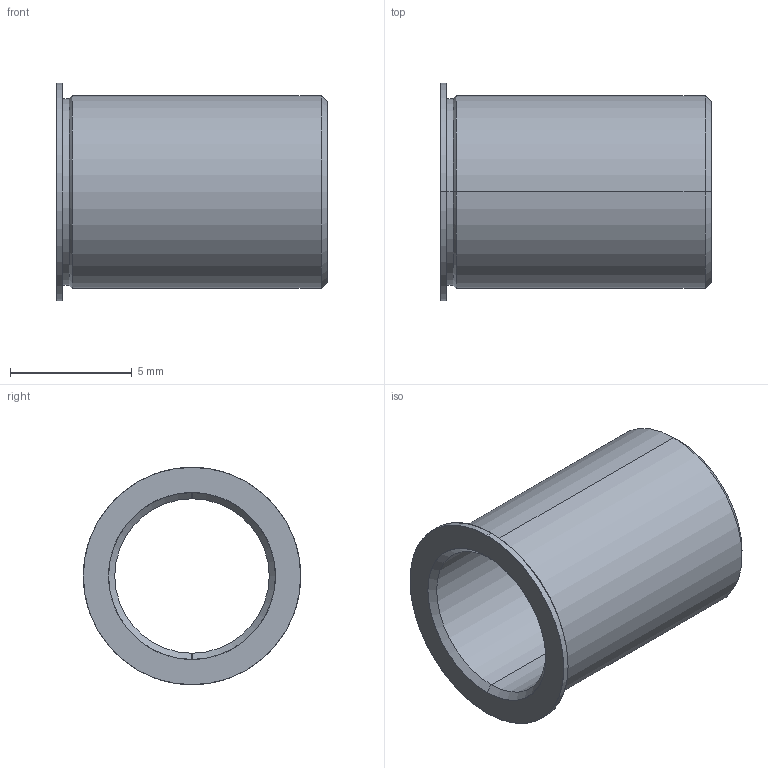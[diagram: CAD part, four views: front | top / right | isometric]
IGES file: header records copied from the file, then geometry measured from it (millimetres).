
Start section: SolidWorks IGES file using analytic representation for surfaces
Global section: file name: C:\Users\workpc\Desktop\KMA Solidworks\TS250-100 Series\TB250-80-438.IGS; native system: SolidWorks 2013; preprocessor: SolidWorks 2013; author: workpc; date: 130213.101353; units: inch
Bounding box: 11.13 x 8.94 x 8.94 mm (x, y, z)
Surface area: 557 mm2 (no closed solid volume)
Topology: 0 solids, 0 shells, 19 faces, 256 edges, 256 vertices
Faces by surface type: revolution 16, bspline 3
